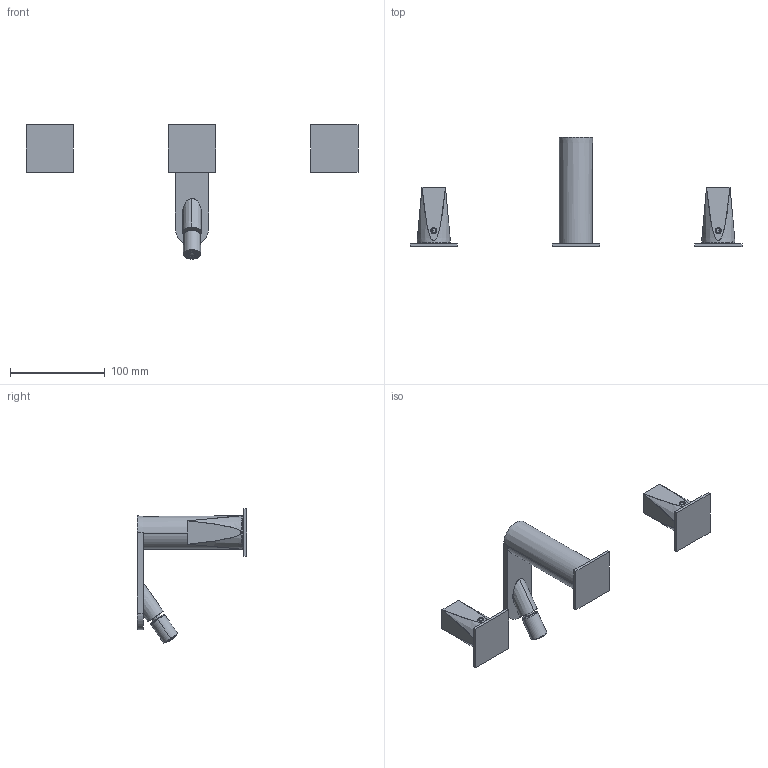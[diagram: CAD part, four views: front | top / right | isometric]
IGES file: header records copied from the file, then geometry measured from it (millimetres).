
Start section:  PTC IGES file: 49104.igs
Global section: file name: 49104.igs; native system: Creo Parametric by PTC Inc.; preprocessor: 2022014; author: carloff; organization: Unknown; date: 20230919.154944; units: millimetre
Bounding box: 350 x 115 x 141.71 mm (x, y, z)
Surface area: 57855.3 mm2 (no closed solid volume)
Topology: 0 solids, 0 shells, 297 faces, 1576 edges, 1568 vertices
Faces by surface type: revolution 181, bspline 116
